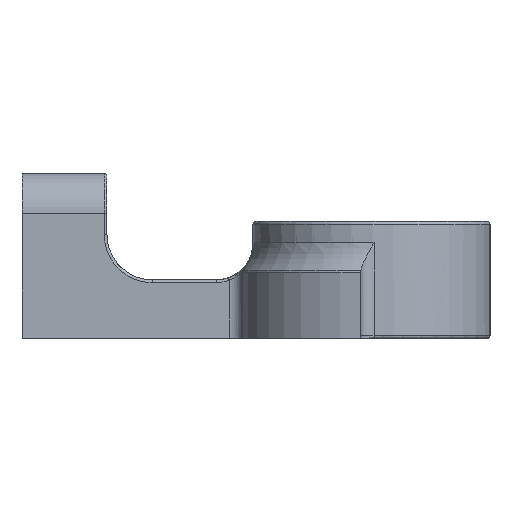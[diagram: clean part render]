
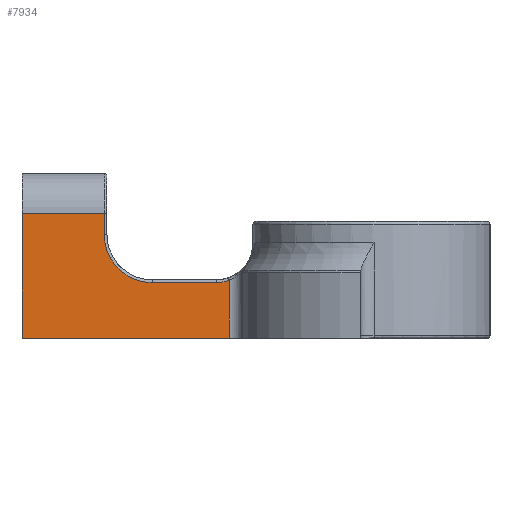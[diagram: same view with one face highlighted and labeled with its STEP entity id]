
A CAD part, left-side view. The second image highlights one B-rep face of the part: STEP entity #7934.
In plain terms, the highlighted planar face has unit normal (-1, 0, 0).
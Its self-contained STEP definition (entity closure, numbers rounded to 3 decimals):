
#191=PLANE('',#8677);
#579=CIRCLE('',#8533,9.);
#1003=B_SPLINE_CURVE_WITH_KNOTS('',3,(#14657,#14658,#14659,#14660),
 .UNSPECIFIED.,.F.,.F.,(4,4),(-0.249,0.),
 .UNSPECIFIED.);
#1445=FACE_OUTER_BOUND('',#1933,.T.);
#1933=EDGE_LOOP('',(#6253,#6254,#6255,#6256,#6257,#6258,#6259,#6260));
#2343=LINE('',#14664,#2740);
#2344=LINE('',#14675,#2741);
#2422=LINE('',#15790,#2819);
#2424=LINE('',#15796,#2821);
#2425=LINE('',#15798,#2822);
#2426=LINE('',#15799,#2823);
#2740=VECTOR('',#9871,10.);
#2741=VECTOR('',#9884,10.);
#2819=VECTOR('',#10242,10.);
#2821=VECTOR('',#10248,10.);
#2822=VECTOR('',#10249,10.);
#2823=VECTOR('',#10250,10.);
#3341=VERTEX_POINT('',#14625);
#3343=VERTEX_POINT('',#14655);
#3344=VERTEX_POINT('',#14662);
#3346=VERTEX_POINT('',#14668);
#3348=VERTEX_POINT('',#14673);
#3463=VERTEX_POINT('',#15789);
#3465=VERTEX_POINT('',#15795);
#3466=VERTEX_POINT('',#15797);
#4273=EDGE_CURVE('',#3343,#3341,#1003,.T.);
#4275=EDGE_CURVE('',#3344,#3343,#2343,.T.);
#4278=EDGE_CURVE('',#3346,#3344,#579,.T.);
#4280=EDGE_CURVE('',#3348,#3346,#2344,.T.);
#4482=EDGE_CURVE('',#3341,#3463,#2422,.T.);
#4485=EDGE_CURVE('',#3465,#3348,#2424,.T.);
#4486=EDGE_CURVE('',#3466,#3465,#2425,.T.);
#4487=EDGE_CURVE('',#3466,#3463,#2426,.T.);
#6253=ORIENTED_EDGE('',*,*,#4280,.F.);
#6254=ORIENTED_EDGE('',*,*,#4485,.F.);
#6255=ORIENTED_EDGE('',*,*,#4486,.F.);
#6256=ORIENTED_EDGE('',*,*,#4487,.T.);
#6257=ORIENTED_EDGE('',*,*,#4482,.F.);
#6258=ORIENTED_EDGE('',*,*,#4273,.F.);
#6259=ORIENTED_EDGE('',*,*,#4275,.F.);
#6260=ORIENTED_EDGE('',*,*,#4278,.F.);
#7934=ADVANCED_FACE('',(#1445),#191,.T.);
#8533=AXIS2_PLACEMENT_3D('',#14670,#9878,#9879);
#8677=AXIS2_PLACEMENT_3D('',#15794,#10246,#10247);
#9871=DIRECTION('',(0.,-1.,0.));
#9878=DIRECTION('center_axis',(-1.,0.,0.));
#9879=DIRECTION('ref_axis',(0.,0.707,-0.707));
#9884=DIRECTION('',(0.,0.,-1.));
#10242=DIRECTION('',(0.,0.,-1.));
#10246=DIRECTION('center_axis',(-1.,0.,0.));
#10247=DIRECTION('ref_axis',(0.,-1.,0.));
#10248=DIRECTION('',(0.,-1.,0.));
#10249=DIRECTION('',(0.,0.,1.));
#10250=DIRECTION('',(0.,-1.,0.));
#14625=CARTESIAN_POINT('',(-2.999,26.945,10.908));
#14655=CARTESIAN_POINT('',(-2.999,29.394,10.5));
#14657=CARTESIAN_POINT('Ctrl Pts',(-2.999,29.394,10.5));
#14658=CARTESIAN_POINT('Ctrl Pts',(-2.999,28.562,10.5));
#14659=CARTESIAN_POINT('Ctrl Pts',(-2.999,27.731,10.638));
#14660=CARTESIAN_POINT('Ctrl Pts',(-2.999,26.945,10.908));
#14662=CARTESIAN_POINT('',(-2.999,41.499,10.5));
#14664=CARTESIAN_POINT('',(-2.999,32.205,10.5));
#14668=CARTESIAN_POINT('',(-2.999,50.499,19.5));
#14670=CARTESIAN_POINT('Origin',(-2.999,41.499,19.5));
#14673=CARTESIAN_POINT('',(-2.999,50.499,23.5));
#14675=CARTESIAN_POINT('',(-2.999,50.499,0.));
#15789=CARTESIAN_POINT('',(-2.999,26.945,0.));
#15790=CARTESIAN_POINT('',(-2.999,26.945,0.));
#15794=CARTESIAN_POINT('Origin',(-2.999,49.999,0.));
#15795=CARTESIAN_POINT('',(-2.999,65.999,23.5));
#15796=CARTESIAN_POINT('',(-2.999,51.499,23.5));
#15797=CARTESIAN_POINT('',(-2.999,65.999,0.));
#15798=CARTESIAN_POINT('',(-2.999,65.999,0.));
#15799=CARTESIAN_POINT('',(-2.999,55.999,0.));
